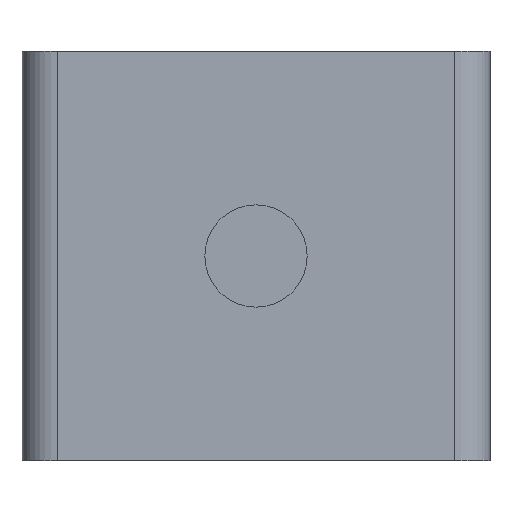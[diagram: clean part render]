
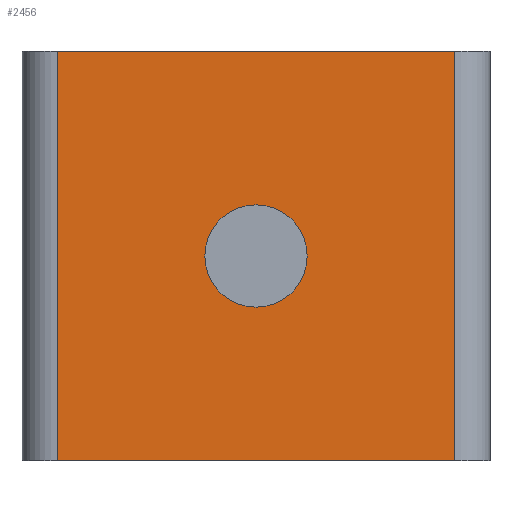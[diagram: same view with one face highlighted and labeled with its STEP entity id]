
A CAD part, front view. The second image highlights one B-rep face of the part: STEP entity #2456.
In plain terms, the highlighted planar face has unit normal (0, -1, 0).
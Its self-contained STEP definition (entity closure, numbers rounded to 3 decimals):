
#2 = DIRECTION ( 'NONE',  ( -1., 0., 0. ) ) ;
#28 = DIRECTION ( 'NONE',  ( 0., 0., 1. ) ) ;
#32 = LINE ( 'NONE', #3046, #1532 ) ;
#177 = EDGE_LOOP ( 'NONE', ( #241, #1030, #213, #2156 ) ) ;
#206 = EDGE_CURVE ( 'NONE', #1117, #276, #32, .T. ) ;
#212 = DIRECTION ( 'NONE',  ( -1., 0., 0. ) ) ;
#213 = ORIENTED_EDGE ( 'NONE', *, *, #3032, .T. ) ;
#241 = ORIENTED_EDGE ( 'NONE', *, *, #206, .T. ) ;
#276 = VERTEX_POINT ( 'NONE', #1043 ) ;
#307 = CARTESIAN_POINT ( 'NONE',  ( 1.75, -27.8, -7. ) ) ;
#382 = ORIENTED_EDGE ( 'NONE', *, *, #1787, .F. ) ;
#413 = EDGE_CURVE ( 'NONE', #276, #3498, #3661, .T. ) ;
#463 = LINE ( 'NONE', #1231, #3559 ) ;
#470 = VECTOR ( 'NONE', #3599, 1000. ) ;
#567 = DIRECTION ( 'NONE',  ( 0., 1., 0. ) ) ;
#576 = CIRCLE ( 'NONE', #1518, 1.75 ) ;
#658 = VERTEX_POINT ( 'NONE', #1263 ) ;
#844 = AXIS2_PLACEMENT_3D ( 'NONE', #3613, #1807, #2 ) ;
#887 = VERTEX_POINT ( 'NONE', #307 ) ;
#925 = FACE_BOUND ( 'NONE', #3029, .T. ) ;
#947 = DIRECTION ( 'NONE',  ( -1., 0., 0. ) ) ;
#1030 = ORIENTED_EDGE ( 'NONE', *, *, #413, .T. ) ;
#1043 = CARTESIAN_POINT ( 'NONE',  ( 6.8, -27.8, -14. ) ) ;
#1117 = VERTEX_POINT ( 'NONE', #3536 ) ;
#1231 = CARTESIAN_POINT ( 'NONE',  ( -6.8, -27.8, -7. ) ) ;
#1233 = CIRCLE ( 'NONE', #844, 1.75 ) ;
#1234 = DIRECTION ( 'NONE',  ( 1., 0., 0. ) ) ;
#1242 = CARTESIAN_POINT ( 'NONE',  ( 6.8, -27.8, 0. ) ) ;
#1263 = CARTESIAN_POINT ( 'NONE',  ( -6.8, -27.8, 0. ) ) ;
#1344 = CARTESIAN_POINT ( 'NONE',  ( -1.75, -27.8, -7. ) ) ;
#1420 = LINE ( 'NONE', #3666, #2949 ) ;
#1518 = AXIS2_PLACEMENT_3D ( 'NONE', #3808, #2016, #212 ) ;
#1532 = VECTOR ( 'NONE', #1234, 1000. ) ;
#1564 = AXIS2_PLACEMENT_3D ( 'NONE', #3571, #567, #2694 ) ;
#1787 = EDGE_CURVE ( 'NONE', #3668, #887, #576, .T. ) ;
#1790 = CARTESIAN_POINT ( 'NONE',  ( 6.8, -27.8, -7. ) ) ;
#1807 = DIRECTION ( 'NONE',  ( 0., -1., 0. ) ) ;
#2016 = DIRECTION ( 'NONE',  ( 0., -1., 0. ) ) ;
#2078 = EDGE_CURVE ( 'NONE', #887, #3668, #1233, .T. ) ;
#2156 = ORIENTED_EDGE ( 'NONE', *, *, #2590, .F. ) ;
#2456 = ADVANCED_FACE ( 'NONE', ( #925, #3221 ), #2677, .F. ) ;
#2590 = EDGE_CURVE ( 'NONE', #1117, #658, #463, .T. ) ;
#2677 = PLANE ( 'NONE',  #1564 ) ;
#2694 = DIRECTION ( 'NONE',  ( 0., 0., 1. ) ) ;
#2949 = VECTOR ( 'NONE', #947, 1000. ) ;
#3029 = EDGE_LOOP ( 'NONE', ( #382, #3450 ) ) ;
#3032 = EDGE_CURVE ( 'NONE', #3498, #658, #1420, .T. ) ;
#3046 = CARTESIAN_POINT ( 'NONE',  ( 0., -27.8, -14. ) ) ;
#3221 = FACE_OUTER_BOUND ( 'NONE', #177, .T. ) ;
#3450 = ORIENTED_EDGE ( 'NONE', *, *, #2078, .F. ) ;
#3498 = VERTEX_POINT ( 'NONE', #1242 ) ;
#3536 = CARTESIAN_POINT ( 'NONE',  ( -6.8, -27.8, -14. ) ) ;
#3559 = VECTOR ( 'NONE', #28, 1000. ) ;
#3571 = CARTESIAN_POINT ( 'NONE',  ( -6.8, -27.8, -14. ) ) ;
#3599 = DIRECTION ( 'NONE',  ( 0., 0., 1. ) ) ;
#3613 = CARTESIAN_POINT ( 'NONE',  ( 0., -27.8, -7. ) ) ;
#3661 = LINE ( 'NONE', #1790, #470 ) ;
#3666 = CARTESIAN_POINT ( 'NONE',  ( 0., -27.8, 0. ) ) ;
#3668 = VERTEX_POINT ( 'NONE', #1344 ) ;
#3808 = CARTESIAN_POINT ( 'NONE',  ( 0., -27.8, -7. ) ) ;
